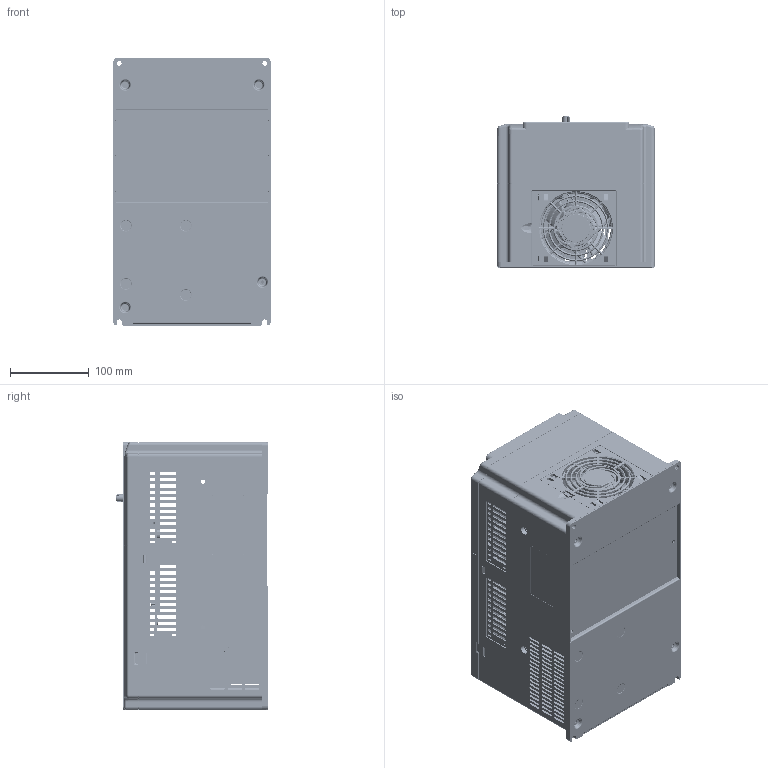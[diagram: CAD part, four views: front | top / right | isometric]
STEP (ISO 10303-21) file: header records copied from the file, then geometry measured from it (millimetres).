
FILE_DESCRIPTION((''),'2;1');
FILE_NAME('GD100-022G-4-S_ASM','2016-12-13T',('Administrator'),(''),'PRO/ENGINEER BY PARAMETRIC TECHNOLOGY CORPORATION, 2010100','PRO/ENGINEER BY PARAMETRIC TECHNOLOGY CORPORATION, 2010100','');
FILE_SCHEMA(('CONFIG_CONTROL_DESIGN'));
Products named in the file (16): 80710014; 80740124; 80310325; FAN_92_38_; 80780039; 80880161; 80810053; 80810010; 80710012; LD100-JP-PCB; 80740127; GD100-JP_ASM; 80810054; 00_DIANKANGQI; 80310401; GD100-022G-4-S_ASM
Assembly tree (15 placements, depth 3):
  GD100-022G-4-S_ASM
    80710014
    80740124
    80310325
    FAN_92_38_
    80780039
    80880161
    80810053
    GD100-JP_ASM
      80810010
      80710012
      LD100-JP-PCB
      80740127
    80810054
    00_DIANKANGQI
    80310401
Bounding box: 201.43 x 192.45 x 340.95 mm (x, y, z)
Volume: 1927494.5 mm3; surface area: 1388312.2 mm2
Topology: 17 solids, 17 shells, 9127 faces, 25897 edges, 16847 vertices
Faces by surface type: plane 5434, cylinder 2233, torus 585, cone 406, bspline 267, extrusion 152, sphere 34, revolution 16
Entity records: 315538 total; most frequent: CARTESIAN_POINT 77489, ORIENTED_EDGE 51766, DIRECTION 46611, EDGE_CURVE 25883, VECTOR 17755, LINE 17603, VERTEX_POINT 16847, AXIS2_PLACEMENT_3D 14420
